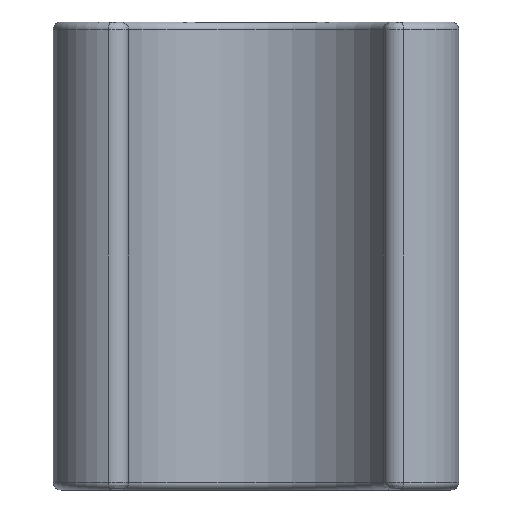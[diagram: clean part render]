
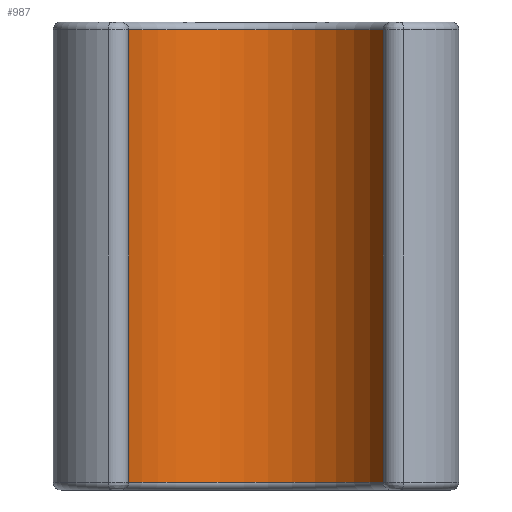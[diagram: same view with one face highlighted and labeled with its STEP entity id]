
A CAD part, front view. The second image highlights one B-rep face of the part: STEP entity #987.
In plain terms, the highlighted cylindrical face has radius 9 mm (diameter 18 mm), a partial arc.
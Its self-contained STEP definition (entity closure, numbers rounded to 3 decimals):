
#78=CYLINDRICAL_SURFACE('',#1111,9.);
#120=FACE_OUTER_BOUND('',#190,.T.);
#190=EDGE_LOOP('',(#743,#744,#745,#746));
#257=LINE('',#1794,#309);
#258=LINE('',#1796,#310);
#309=VECTOR('',#1327,10.);
#310=VECTOR('',#1330,10.);
#361=CIRCLE('',#1077,9.);
#382=CIRCLE('',#1102,9.);
#440=VERTEX_POINT('',#1630);
#442=VERTEX_POINT('',#1636);
#463=VERTEX_POINT('',#1740);
#465=VERTEX_POINT('',#1746);
#529=EDGE_CURVE('',#442,#440,#361,.T.);
#559=EDGE_CURVE('',#463,#465,#382,.T.);
#568=EDGE_CURVE('',#442,#465,#257,.T.);
#569=EDGE_CURVE('',#440,#463,#258,.T.);
#743=ORIENTED_EDGE('',*,*,#529,.F.);
#744=ORIENTED_EDGE('',*,*,#568,.T.);
#745=ORIENTED_EDGE('',*,*,#559,.F.);
#746=ORIENTED_EDGE('',*,*,#569,.F.);
#987=ADVANCED_FACE('',(#120),#78,.F.);
#1077=AXIS2_PLACEMENT_3D('',#1638,#1250,#1251);
#1102=AXIS2_PLACEMENT_3D('',#1750,#1307,#1308);
#1111=AXIS2_PLACEMENT_3D('',#1795,#1328,#1329);
#1250=DIRECTION('center_axis',(0.,0.,1.));
#1251=DIRECTION('ref_axis',(0.,1.,0.));
#1307=DIRECTION('center_axis',(0.,0.,-1.));
#1308=DIRECTION('ref_axis',(0.,1.,0.));
#1327=DIRECTION('',(0.,0.,1.));
#1328=DIRECTION('center_axis',(0.,0.,1.));
#1329=DIRECTION('ref_axis',(-0.917,0.4,0.));
#1330=DIRECTION('',(0.,0.,1.));
#1630=CARTESIAN_POINT('',(-31.236,-52.387,0.5));
#1636=CARTESIAN_POINT('',(-14.739,-52.387,0.5));
#1638=CARTESIAN_POINT('Origin',(-22.987,-48.787,0.5));
#1740=CARTESIAN_POINT('',(-31.236,-52.387,29.5));
#1746=CARTESIAN_POINT('',(-14.739,-52.387,29.5));
#1750=CARTESIAN_POINT('Origin',(-22.987,-48.787,29.5));
#1794=CARTESIAN_POINT('',(-14.739,-52.387,0.));
#1795=CARTESIAN_POINT('Origin',(-22.987,-48.787,0.));
#1796=CARTESIAN_POINT('',(-31.236,-52.387,0.));
